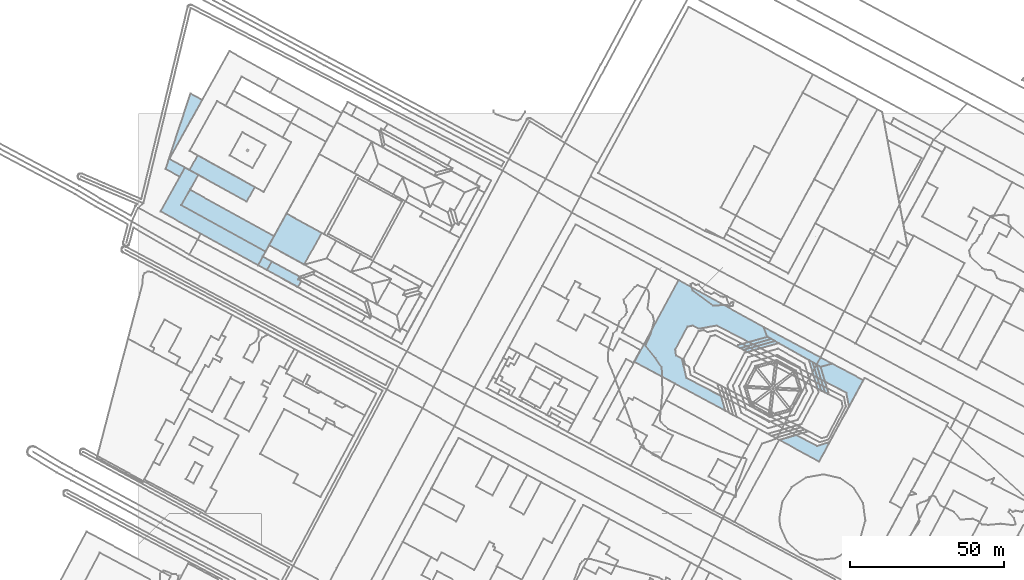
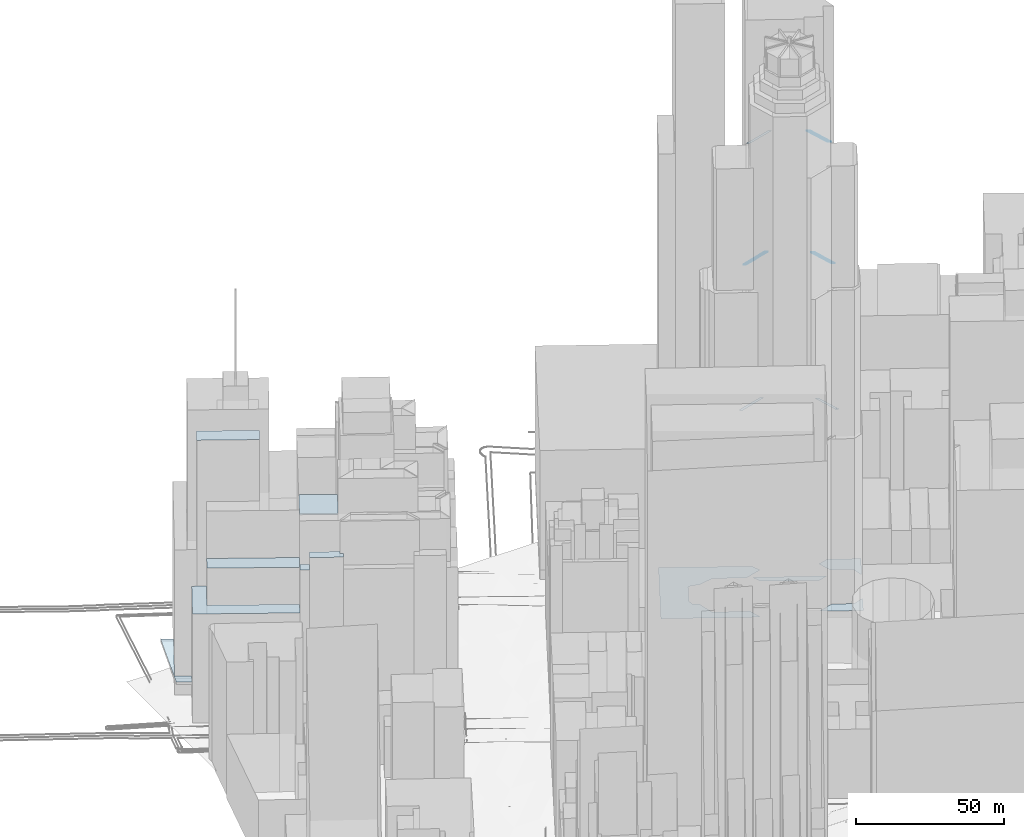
# Not in any storey, part 43 of 80: 17 roofs.
"""IFC4 building model written with IfcOpenShell, lengths in metres."""

from ifc_helpers import new_model, si_unit, frame, origin_with_axes, place, context, subcontext, project, spatial, polygons, element, save


model = new_model("IFC4")

# Units and contexts
model_context = context("Model", 3, precision=1e-05, world=origin_with_axes())
body_context = subcontext(model_context, "Body", "Model", "MODEL_VIEW")
ifc_project = project(units=[si_unit("AREAUNIT", "SQUARE_METRE"), si_unit("LENGTHUNIT", "METRE")], contexts=[model_context])

# Sites, building
site_1_placement = place(None, origin_with_axes())
site_1 = spatial("IfcSite", under=ifc_project, at=site_1_placement, Name="Topoexport Site")
site_2_placement = place(site_1_placement, origin_with_axes())
site_2 = spatial("IfcSite", under=site_1, at=site_2_placement, Name="TPX_BATIMENTS")
building_1_placement = place(site_2_placement, frame((161.19127827, 298.8014028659, 19.4608547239), z_axis=(0.0, 0.0, 1.0), x_axis=(1.0, 0.0, 0.0)))
building_1 = spatial("IfcBuilding", under=site_2, at=building_1_placement, Name="Batiment 98", CompositionType="ELEMENT")

# Roof
roof_1_placement = place(None, frame((161.19127827, 298.8014028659, 19.4608547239), z_axis=(0.0, 0.0, 1.0), x_axis=(1.0, 0.0, 0.0)))
element("IfcRoof", 1, at=roof_1_placement, inside=building_1, Name="Toiture 0", context=body_context, shape_type="Tessellation", body=[
    polygons([(0.0, 0.0, 22.0), (29.637602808, -15.9646779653, 22.0), (28.2733478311, -11.1621604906, 22.0), (16.9696826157, -5.2983587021, 22.0), (15.5294506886, 0.9576732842, 22.0), (13.5836021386, 2.0563807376, 22.0), (13.3239184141, 4.0628703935, 22.0), (17.2729201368, 11.4584719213, 22.0), (18.9830601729, 11.7559095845, 22.0), (20.8772332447, 10.7454208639, 22.0), (26.7655958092, 11.7908792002, 22.0), (37.1350091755, 6.4158307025, 22.0), (43.2518253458, 8.1411963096, 22.0), (42.0671637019, 11.2915635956, 22.0), (14.3795340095, 26.5350073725, 22.0)], [[[1, 2, 3]], [[4, 5, 6]], [[9, 10, 11]], [[11, 12, 13]], [[13, 14, 15]], [[1, 3, 4]], [[11, 13, 15]], [[1, 4, 6]], [[9, 11, 15]], [[1, 6, 7]], [[8, 9, 15]], [[15, 1, 7]], [[7, 8, 15]]]),
])

# Building
building_2_placement = place(site_2_placement, frame((203.2584419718, 310.0929664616, 21.9404542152), z_axis=(0.0, 0.0, 1.0), x_axis=(1.0, 0.0, 0.0)))
building_2 = spatial("IfcBuilding", under=site_2, at=building_2_placement, Name="Batiment 99", CompositionType="ELEMENT")

# Roof
roof_2_placement = place(None, frame((203.2584419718, 310.0929664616, 21.9404542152), z_axis=(0.0, 0.0, 1.0), x_axis=(1.0, 0.0, 0.0)))
element("IfcRoof", 2, at=roof_2_placement, inside=building_2, Name="Toiture 0", context=body_context, shape_type="Tessellation", body=[
    polygons([(0.0, 0.0, 15.0), (1.1846616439, -3.1503672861, 15.0), (18.5101123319, -12.9075972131, 15.0), (22.221026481, -11.8985374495, 15.0)], [[[4, 1, 2]], [[2, 3, 4]]]),
])

# Building
building_3_placement = place(site_2_placement, frame((219.2364479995, 298.6103141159, 22.0370250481), z_axis=(0.0, 0.0, 1.0), x_axis=(1.0, 0.0, 0.0)))
building_3 = spatial("IfcBuilding", under=site_2, at=building_3_placement, Name="Batiment 100", CompositionType="ELEMENT")

# Roof
roof_3_placement = place(None, frame((219.2364479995, 298.6103141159, 22.0370250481), z_axis=(0.0, 0.0, 1.0), x_axis=(1.0, 0.0, 0.0)))
element("IfcRoof", 3, at=roof_3_placement, inside=building_3, Name="Toiture 0", context=body_context, shape_type="Tessellation", body=[
    polygons([(0.0, 0.0, 150.0), (2.8171290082, -9.2376195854, 150.0), (4.0061240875, -9.8566187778, 150.0), (1.2661175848, -0.7180229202, 150.0)], [[[4, 1, 2]], [[2, 3, 4]]]),
])

# Building
building_4_placement = place(site_2_placement, frame((220.5025655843, 297.8922911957, 22.020281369), z_axis=(0.0, 0.0, 1.0), x_axis=(1.0, 0.0, 0.0)))
building_4 = spatial("IfcBuilding", under=site_2, at=building_4_placement, Name="Batiment 101", CompositionType="ELEMENT")

# Roof
roof_4_placement = place(None, frame((220.5025655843, 297.8922911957, 22.020281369), z_axis=(0.0, 0.0, 1.0), x_axis=(1.0, 0.0, 0.0)))
element("IfcRoof", 4, at=roof_4_placement, inside=building_4, Name="Toiture 0", context=body_context, shape_type="Tessellation", body=[
    polygons([(0.0, 0.0, 90.0), (2.7400065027, -9.1385958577, 90.0), (3.6317852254, -9.6056203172, 90.0), (3.8550238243, -9.20334242, 90.0), (1.2659887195, -0.7069219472, 90.0)], [[[5, 1, 2]], [[2, 3, 4]], [[4, 5, 2]]]),
])

# Building
building_5_placement = place(site_2_placement, frame((221.7685543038, 297.1853692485, 21.8040198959), z_axis=(0.0, 0.0, 1.0), x_axis=(1.0, 0.0, 0.0)))
building_5 = spatial("IfcBuilding", under=site_2, at=building_5_placement, Name="Batiment 102", CompositionType="ELEMENT")

# Roof
roof_5_placement = place(None, frame((221.7685543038, 297.1853692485, 21.8040198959), z_axis=(0.0, 0.0, 1.0), x_axis=(1.0, 0.0, 0.0)))
element("IfcRoof", 5, at=roof_5_placement, inside=building_5, Name="Toiture 0", context=body_context, shape_type="Tessellation", body=[
    polygons([(0.0, 0.0, 22.0), (1.4921694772, -4.9120468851, 22.0), (8.354244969, -8.4737691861, 22.0), (9.2151276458, -12.8158404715, 22.0), (13.843917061, -4.3575852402, 22.0), (3.7109141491, 1.0090597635, 22.0)], [[[6, 1, 2]], [[3, 4, 5]], [[5, 6, 2]], [[2, 3, 5]]]),
])

# Building
building_6_placement = place(site_2_placement, frame((208.2008787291, 273.4352760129, 21.5056877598), z_axis=(0.0, 0.0, 1.0), x_axis=(1.0, 0.0, 0.0)))
building_6 = spatial("IfcBuilding", under=site_2, at=building_6_placement, Name="Batiment 103", CompositionType="ELEMENT")

# Roof
roof_6_placement = place(None, frame((208.2008787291, 273.4352760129, 21.5056877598), z_axis=(0.0, 0.0, 1.0), x_axis=(1.0, 0.0, 0.0)))
element("IfcRoof", 6, at=roof_6_placement, inside=building_6, Name="Toiture 0", context=body_context, shape_type="Tessellation", body=[
    polygons([(0.0, 0.0, 22.0), (13.0821989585, -7.0865241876, 22.0), (16.451848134, -0.6857371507, 22.0), (12.4573086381, -1.9867536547, 22.0), (5.6462511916, 1.5422641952, 22.0)], [[[5, 1, 2]], [[2, 3, 4]], [[4, 5, 2]]]),
])

# Building
building_7_placement = place(site_2_placement, frame((217.9703306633, 299.3283372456, 22.0589444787), z_axis=(0.0, 0.0, 1.0), x_axis=(1.0, 0.0, 0.0)))
building_7 = spatial("IfcBuilding", under=site_2, at=building_7_placement, Name="Batiment 107", CompositionType="ELEMENT")

# Roof
roof_7_placement = place(None, frame((217.9703306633, 299.3283372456, 22.0589444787), z_axis=(0.0, 0.0, 1.0), x_axis=(1.0, 0.0, 0.0)))
element("IfcRoof", 7, at=roof_7_placement, inside=building_7, Name="Toiture 0", context=body_context, shape_type="Tessellation", body=[
    polygons([(0.0, 0.0, 200.0), (2.8432226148, -9.3039300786, 200.0), (4.0832463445, -9.9556427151, 200.0), (1.2661173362, -0.7180231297, 200.0)], [[[4, 1, 2]], [[2, 3, 4]]]),
])

# Building
building_8_placement = place(site_2_placement, frame((41.7800097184, 328.5784664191, 23.4010795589), z_axis=(0.0, 0.0, 1.0), x_axis=(1.0, 0.0, 0.0)))
building_8 = spatial("IfcBuilding", under=site_2, at=building_8_placement, Name="Batiment 152", CompositionType="ELEMENT")

# Roof
roof_8_placement = place(None, frame((41.7800097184, 328.5784664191, 23.4010795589), z_axis=(0.0, 0.0, 1.0), x_axis=(1.0, 0.0, 0.0)))
element("IfcRoof", 8, at=roof_8_placement, inside=building_8, Name="Toiture 0", context=body_context, shape_type="Tessellation", body=[
    polygons([(0.0, 0.0, 67.0), (10.0500953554, -5.5121834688, 67.0), (11.1329543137, -3.534514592, 67.0), (10.1390067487, -2.9909401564, 67.0), (10.6265412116, -2.085998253, 67.0), (1.5539020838, 2.8491104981, 67.0)], [[[6, 1, 2]], [[2, 3, 4]], [[4, 5, 6]], [[6, 2, 4]]]),
])

# Building
building_9_placement = place(site_2_placement, frame((194.6888328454, 303.6983377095, 22.4164949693), z_axis=(0.0, 0.0, 1.0), x_axis=(1.0, 0.0, 0.0)))
building_9 = spatial("IfcBuilding", under=site_2, at=building_9_placement, Name="Batiment 261", CompositionType="ELEMENT")

# Roof
roof_9_placement = place(None, frame((194.6888328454, 303.6983377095, 22.4164949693), z_axis=(0.0, 0.0, 1.0), x_axis=(1.0, 0.0, 0.0)))
element("IfcRoof", 9, at=roof_9_placement, inside=building_9, Name="Toiture 0", context=body_context, shape_type="Tessellation", body=[
    polygons([(0.0, 0.0, 90.0), (0.8833348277, -0.4671259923, 90.0), (10.9779261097, 2.547946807, 90.0), (9.7542707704, 3.244261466, 90.0), (0.3055768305, 0.5808705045, 90.0)], [[[5, 1, 2]], [[2, 3, 4]], [[4, 5, 2]]]),
])

# Building
building_10_placement = place(site_2_placement, frame((195.5721676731, 303.2312117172, 22.3534216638), z_axis=(0.0, 0.0, 1.0), x_axis=(1.0, 0.0, 0.0)))
building_10 = spatial("IfcBuilding", under=site_2, at=building_10_placement, Name="Batiment 262", CompositionType="ELEMENT")

# Roof
roof_10_placement = place(None, frame((195.5721676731, 303.2312117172, 22.3534216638), z_axis=(0.0, 0.0, 1.0), x_axis=(1.0, 0.0, 0.0)))
element("IfcRoof", 10, at=roof_10_placement, inside=building_10, Name="Toiture 0", context=body_context, shape_type="Tessellation", body=[
    polygons([(0.0, 0.0, 150.0), (1.0701818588, -0.5648735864, 150.0), (11.3265579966, 2.3299572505, 150.0), (10.094591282, 3.0150727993, 150.0)], [[[4, 1, 2]], [[2, 3, 4]]]),
])

# Building
building_11_placement = place(site_2_placement, frame((196.642349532, 302.6663381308, 22.285008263), z_axis=(0.0, 0.0, 1.0), x_axis=(1.0, 0.0, 0.0)))
building_11 = spatial("IfcBuilding", under=site_2, at=building_11_placement, Name="Batiment 263", CompositionType="ELEMENT")

# Roof
roof_11_placement = place(None, frame((196.642349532, 302.6663381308, 22.285008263), z_axis=(0.0, 0.0, 1.0), x_axis=(1.0, 0.0, 0.0)))
element("IfcRoof", 11, at=roof_11_placement, inside=building_11, Name="Toiture 0", context=body_context, shape_type="Tessellation", body=[
    polygons([(0.0, 0.0, 200.0), (1.290919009, -0.6733292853, 200.0), (11.4462710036, 2.1981239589, 200.0), (10.2563761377, 2.8948308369, 200.0)], [[[4, 1, 2]], [[2, 3, 4]]]),
])

# Building
building_12_placement = place(site_2_placement, frame((42.4543960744, 336.6576310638, 22.8602980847), z_axis=(0.0, 0.0, 1.0), x_axis=(1.0, 0.0, 0.0)))
building_12 = spatial("IfcBuilding", under=site_2, at=building_12_placement, Name="Batiment 298", CompositionType="ELEMENT")

# Roof
roof_12_placement = place(None, frame((42.4543960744, 336.6576310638, 22.8602980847), z_axis=(0.0, 0.0, 1.0), x_axis=(1.0, 0.0, 0.0)))
element("IfcRoof", 12, at=roof_12_placement, inside=building_12, Name="Toiture 0", context=body_context, shape_type="Tessellation", body=[
    polygons([(0.0, 0.0, 80.0), (11.4264184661, -6.2733628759, 80.0), (17.1228970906, 4.0290444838, 80.0), (5.6710397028, 10.3132053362, 80.0)], [[[4, 1, 2]], [[2, 3, 4]]]),
])

# Building
building_13_placement = place(site_2_placement, frame((7.1766328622, 347.6946620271, 22.6847044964), z_axis=(0.0, 0.0, 1.0), x_axis=(1.0, 0.0, 0.0)))
building_13 = spatial("IfcBuilding", under=site_2, at=building_13_placement, Name="Batiment 303", CompositionType="ELEMENT")

# Roof
roof_13_placement = place(None, frame((7.1766328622, 347.6946620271, 22.6847044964), z_axis=(0.0, 0.0, 1.0), x_axis=(1.0, 0.0, 0.0)))
element("IfcRoof", 13, at=roof_13_placement, inside=building_13, Name="Toiture 0", context=body_context, shape_type="Tessellation", body=[
    polygons([(0.0, 0.0, 45.0), (31.7064559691, -17.5288908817, 45.0), (34.1368527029, -13.1041901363, 45.0), (6.7972554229, 2.0106592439, 45.0), (12.2796097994, 11.8553581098, 45.0), (7.9382167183, 14.2585789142, 45.0)], [[[1, 2, 3]], [[4, 5, 6]], [[1, 3, 4]], [[4, 6, 1]]]),
])

# Building
building_14_placement = place(site_2_placement, frame((16.6101084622, 361.1268202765, 22.7114009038), z_axis=(0.0, 0.0, 1.0), x_axis=(1.0, 0.0, 0.0)))
building_14 = spatial("IfcBuilding", under=site_2, at=building_14_placement, Name="Batiment 304", CompositionType="ELEMENT")

# Roof
roof_14_placement = place(None, frame((16.6101084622, 361.1268202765, 22.7114009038), z_axis=(0.0, 0.0, 1.0), x_axis=(1.0, 0.0, 0.0)))
element("IfcRoof", 14, at=roof_14_placement, inside=building_14, Name="Toiture 0", context=body_context, shape_type="Tessellation", body=[
    polygons([(0.0, 0.0, 105.0), (18.5802692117, -10.2649021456, 105.0), (21.23480915, -5.5156355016, 105.0), (2.6544189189, 4.7603606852, 105.0)], [[[4, 1, 2]], [[2, 3, 4]]]),
])

# Building
building_15_placement = place(site_2_placement, frame((13.9738882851, 349.705321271, 22.9265770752), z_axis=(0.0, 0.0, 1.0), x_axis=(1.0, 0.0, 0.0)))
building_15 = spatial("IfcBuilding", under=site_2, at=building_15_placement, Name="Batiment 305", CompositionType="ELEMENT")

# Roof
roof_15_placement = place(None, frame((13.9738882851, 349.705321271, 22.9265770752), z_axis=(0.0, 0.0, 1.0), x_axis=(1.0, 0.0, 0.0)))
element("IfcRoof", 15, at=roof_15_placement, inside=building_15, Name="Toiture 0", context=body_context, shape_type="Tessellation", body=[
    polygons([(0.0, 0.0, 60.0), (27.33959728, -15.1148493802, 60.0), (30.1006408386, -10.0867881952, 60.0), (2.7949453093, 5.0173419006, 60.0)], [[[4, 1, 2]], [[2, 3, 4]]]),
])

# Building
building_16_placement = place(site_2_placement, frame((8.8487001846, 361.4586486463, 29.7839697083), z_axis=(0.0, 0.0, 1.0), x_axis=(1.0, 0.0, 0.0)))
building_16 = spatial("IfcBuilding", under=site_2, at=building_16_placement, Name="Batiment 312", CompositionType="ELEMENT")

# Roof
roof_16_placement = place(None, frame((8.8487001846, 361.4586486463, 29.7839697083), z_axis=(0.0, 0.0, 1.0), x_axis=(1.0, 0.0, 0.0)))
element("IfcRoof", 16, at=roof_16_placement, inside=building_16, Name="Toiture 0", context=body_context, shape_type="Tessellation", body=[
    polygons([(0.0, 0.0, 1.0), (4.5875730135, -2.5224926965, 1.0), (6.2661493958, 0.494592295, 1.0), (1.2195887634, 3.2893146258, 1.0), (11.8949184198, 22.4535480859, 1.0), (8.0632962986, 24.5740246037, 1.0)], [[[1, 2, 3]], [[4, 5, 6]], [[1, 3, 4]], [[4, 6, 1]]]),
])

# Building
building_17_placement = place(site_2_placement, frame((38.8830888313, 330.1657711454, 23.374337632), z_axis=(0.0, 0.0, 1.0), x_axis=(1.0, 0.0, 0.0)))
building_17 = spatial("IfcBuilding", under=site_2, at=building_17_placement, Name="Batiment 332", CompositionType="ELEMENT")

# Roof
roof_17_placement = place(None, frame((38.8830888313, 330.1657711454, 23.374337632), z_axis=(0.0, 0.0, 1.0), x_axis=(1.0, 0.0, 0.0)))
element("IfcRoof", 17, at=roof_17_placement, inside=building_17, Name="Toiture 0", context=body_context, shape_type="Tessellation", body=[
    polygons([(0.0, 0.0, 62.0), (2.8969208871, -1.5873047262, 62.0), (4.4508229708, 1.2618057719, 62.0), (1.5541605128, 2.8269083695, 62.0)], [[[4, 1, 2]], [[2, 3, 4]]]),
])

save(model, "model.ifc")
